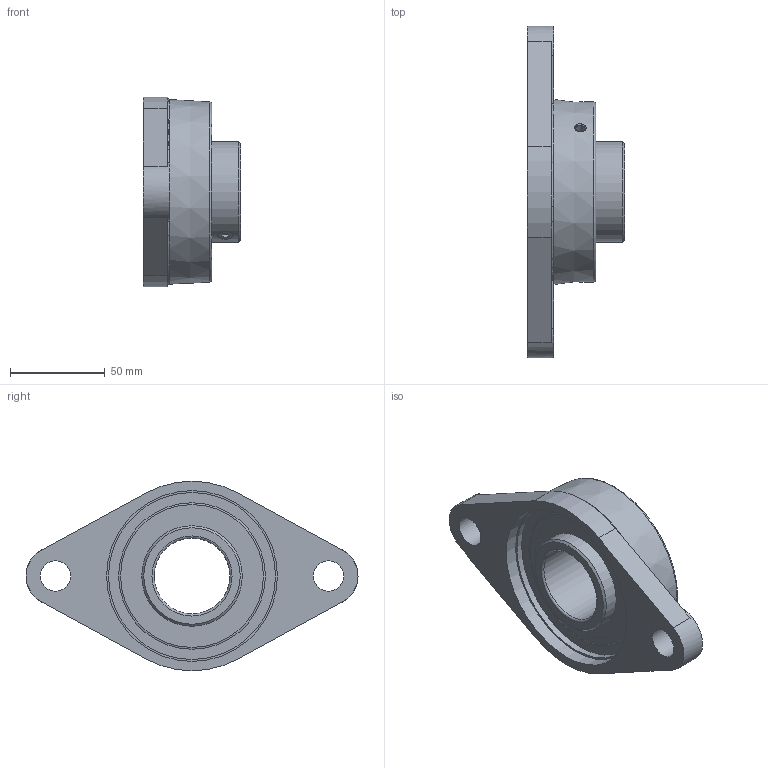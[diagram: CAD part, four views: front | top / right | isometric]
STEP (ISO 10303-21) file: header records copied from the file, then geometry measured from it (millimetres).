
FILE_DESCRIPTION (( 'STEP AP203' ), '1' );
FILE_NAME ('UCFL-208.STEP', '2019-03-08T12:12:53', ( '' ), ( '' ), 'SwSTEP 2.0', 'SolidWorks 2017', '' );
FILE_SCHEMA (( 'CONFIG_CONTROL_DESIGN' ));
Length unit declared in the file: millimetre
Products named in the file (1): UCFL-208
Bounding box: 51.2 x 175 x 100 mm (x, y, z)
Volume: 201274.6 mm3; surface area: 58669.3 mm2
Topology: 1 solids, 3 shells, 99 faces, 218 edges, 143 vertices
Faces by surface type: plane 43, cylinder 28, cone 12, torus 9, sphere 7
Full cylindrical faces by diameter (mm): 1.05 x4, 4.918 x1, 6 x1, 8 x2, 16 x2, 40 x1, 53 x4, 67.849 x2, 88 x2, 90 x1
Entity records: 3001 total; most frequent: CARTESIAN_POINT 970, DIRECTION 408, ORIENTED_EDGE 328, AXIS2_PLACEMENT_3D 172, EDGE_CURVE 164, EDGE_LOOP 162, FACE_OUTER_BOUND 126, VERTEX_POINT 124
